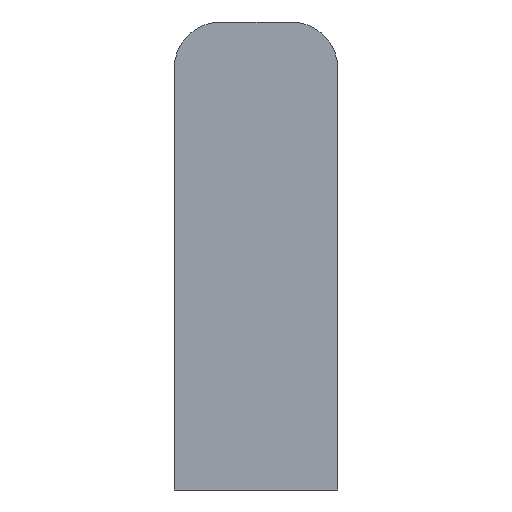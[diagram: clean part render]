
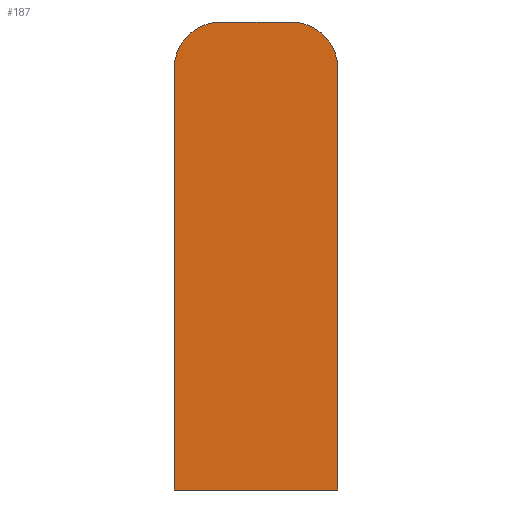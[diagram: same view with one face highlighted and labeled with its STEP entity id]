
A CAD part, front view. The second image highlights one B-rep face of the part: STEP entity #187.
In plain terms, the highlighted planar face has unit normal (0, -1, 0).
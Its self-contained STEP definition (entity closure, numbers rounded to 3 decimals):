
#63 = EDGE_LOOP ( 'NONE', ( #67, #72, #71, #73, #77, #78 ) ) ;
#67 = ORIENTED_EDGE ( 'NONE', *, *, #259, .T. ) ;
#71 = ORIENTED_EDGE ( 'NONE', *, *, #240, .T. ) ;
#72 = ORIENTED_EDGE ( 'NONE', *, *, #241, .T. ) ;
#73 = ORIENTED_EDGE ( 'NONE', *, *, #229, .T. ) ;
#77 = ORIENTED_EDGE ( 'NONE', *, *, #232, .T. ) ;
#78 = ORIENTED_EDGE ( 'NONE', *, *, #214, .T. ) ;
#105 = LINE ( 'NONE', #359, #106 ) ;
#106 = VECTOR ( 'NONE', #360, 1000. ) ;
#124 = CIRCLE ( 'NONE', #256, 3. ) ;
#125 = LINE ( 'NONE', #387, #126 ) ;
#126 = VECTOR ( 'NONE', #388, 1000. ) ;
#129 = LINE ( 'NONE', #394, #130 ) ;
#130 = VECTOR ( 'NONE', #395, 1000. ) ;
#132 = CIRCLE ( 'NONE', #255, 3. ) ;
#141 = FACE_OUTER_BOUND ( 'NONE', #63, .T. ) ;
#164 = VECTOR ( 'NONE', #419, 1000. ) ;
#165 = LINE ( 'NONE', #416, #164 ) ;
#187 = ADVANCED_FACE ( 'NONE', ( #141 ), #320, .F. ) ;
#214 = EDGE_CURVE ( 'NONE', #282, #286, #105, .T. ) ;
#221 = AXIS2_PLACEMENT_3D ( 'NONE', #324, #330, #331 ) ;
#229 = EDGE_CURVE ( 'NONE', #278, #289, #124, .T. ) ;
#232 = EDGE_CURVE ( 'NONE', #289, #282, #125, .T. ) ;
#240 = EDGE_CURVE ( 'NONE', #288, #278, #129, .T. ) ;
#241 = EDGE_CURVE ( 'NONE', #287, #288, #132, .T. ) ;
#255 = AXIS2_PLACEMENT_3D ( 'NONE', #382, #397, #398 ) ;
#256 = AXIS2_PLACEMENT_3D ( 'NONE', #380, #383, #384 ) ;
#259 = EDGE_CURVE ( 'NONE', #286, #287, #165, .T. ) ;
#278 = VERTEX_POINT ( 'NONE', #434 ) ;
#282 = VERTEX_POINT ( 'NONE', #438 ) ;
#286 = VERTEX_POINT ( 'NONE', #442 ) ;
#287 = VERTEX_POINT ( 'NONE', #443 ) ;
#288 = VERTEX_POINT ( 'NONE', #444 ) ;
#289 = VERTEX_POINT ( 'NONE', #445 ) ;
#320 = PLANE ( 'NONE',  #221 ) ;
#324 = CARTESIAN_POINT ( 'NONE',  ( 0., 0., -1.5 ) ) ;
#330 = DIRECTION ( 'NONE',  ( 0., 1., 0. ) ) ;
#331 = DIRECTION ( 'NONE',  ( -1., 0., 0. ) ) ;
#359 = CARTESIAN_POINT ( 'NONE',  ( 5.25, 0., -16.5 ) ) ;
#360 = DIRECTION ( 'NONE',  ( 1., 0., 0. ) ) ;
#380 = CARTESIAN_POINT ( 'NONE',  ( -2.25, 0., 10.5 ) ) ;
#382 = CARTESIAN_POINT ( 'NONE',  ( 2.25, 0., 10.5 ) ) ;
#383 = DIRECTION ( 'NONE',  ( 0., -1., 0. ) ) ;
#384 = DIRECTION ( 'NONE',  ( -1., 0., 0. ) ) ;
#387 = CARTESIAN_POINT ( 'NONE',  ( -5.25, 0., -16.5 ) ) ;
#388 = DIRECTION ( 'NONE',  ( 0., 0., -1. ) ) ;
#394 = CARTESIAN_POINT ( 'NONE',  ( 2.25, 0., 13.5 ) ) ;
#395 = DIRECTION ( 'NONE',  ( -1., 0., 0. ) ) ;
#397 = DIRECTION ( 'NONE',  ( 0., -1., 0. ) ) ;
#398 = DIRECTION ( 'NONE',  ( -1., 0., 0. ) ) ;
#416 = CARTESIAN_POINT ( 'NONE',  ( 5.25, 0., -16.5 ) ) ;
#419 = DIRECTION ( 'NONE',  ( 0., 0., 1. ) ) ;
#434 = CARTESIAN_POINT ( 'NONE',  ( -2.25, 0., 13.5 ) ) ;
#438 = CARTESIAN_POINT ( 'NONE',  ( -5.25, 0., -16.5 ) ) ;
#442 = CARTESIAN_POINT ( 'NONE',  ( 5.25, 0., -16.5 ) ) ;
#443 = CARTESIAN_POINT ( 'NONE',  ( 5.25, 0., 10.5 ) ) ;
#444 = CARTESIAN_POINT ( 'NONE',  ( 2.25, 0., 13.5 ) ) ;
#445 = CARTESIAN_POINT ( 'NONE',  ( -5.25, 0., 10.5 ) ) ;
